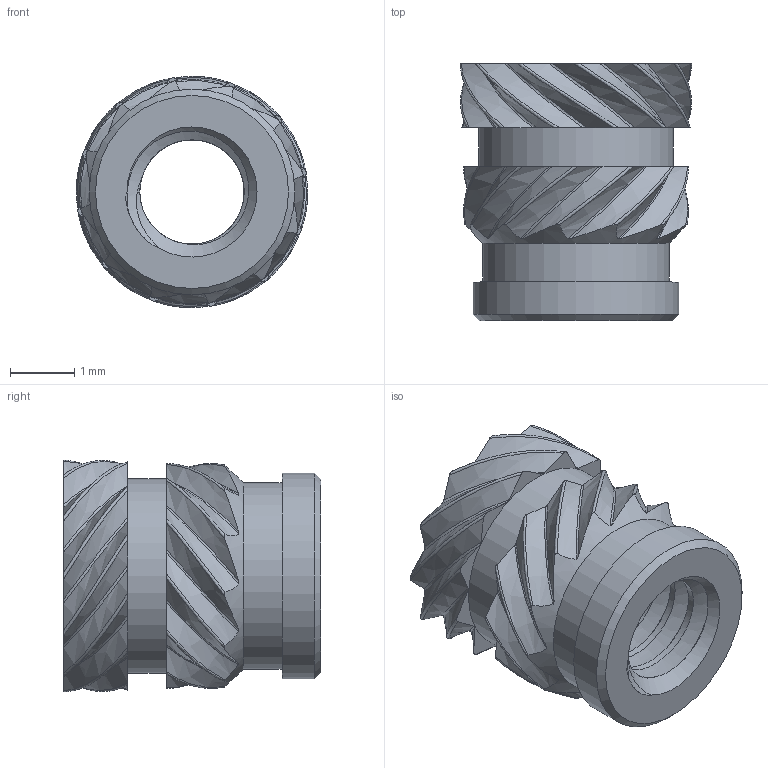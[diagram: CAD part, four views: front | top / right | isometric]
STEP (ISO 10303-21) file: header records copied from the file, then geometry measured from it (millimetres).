
FILE_DESCRIPTION(('Open CASCADE Model'),'2;1');
FILE_NAME('REF_insert_ruthex_RX-M2x4_left_carrier_-36', '2026-09-06T11:35:12',('Author'),('Open CASCADE'), 'Open CASCADE STEP processor 7.8','build123d','Unknown');
FILE_SCHEMA(('AUTOMOTIVE_DESIGN { 1 0 10303 214 1 1 1 1 }'));
Length unit declared in the file: millimetre
Products named in the file (1): REF_insert_ruthex_RX-M2x4_left_carrier_-36
Bounding box: 3.6 x 4 x 3.6 mm (x, y, z)
Volume: 20.9 mm3; surface area: 101.2 mm2
Topology: 1 solids, 1 shells, 272 faces, 779 edges, 521 vertices
Faces by surface type: bspline 165, plane 82, cylinder 19, cone 6
Full cylindrical faces by diameter (mm): 1.623 x1, 2.074 x3, 2.9 x1, 3.03 x1, 3.2 x1
Entity records: 36842 total; most frequent: CARTESIAN_POINT 24155, ORIENTED_EDGE 1558, PCURVE 1558, DEFINITIONAL_REPRESENTATION 1558, DIRECTION 1299, B_SPLINE_CURVE_WITH_KNOTS 1265, LINE 1043, VECTOR 1043
